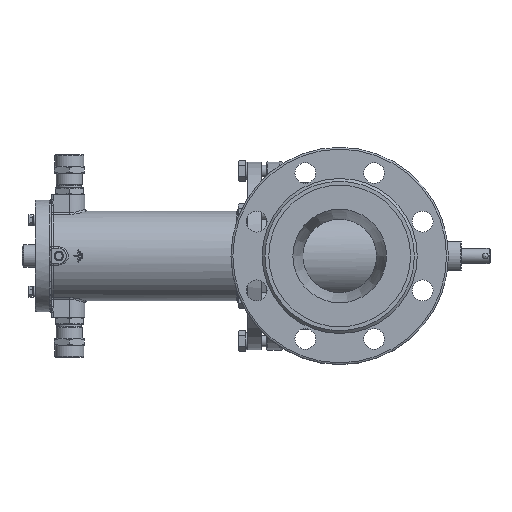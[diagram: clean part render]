
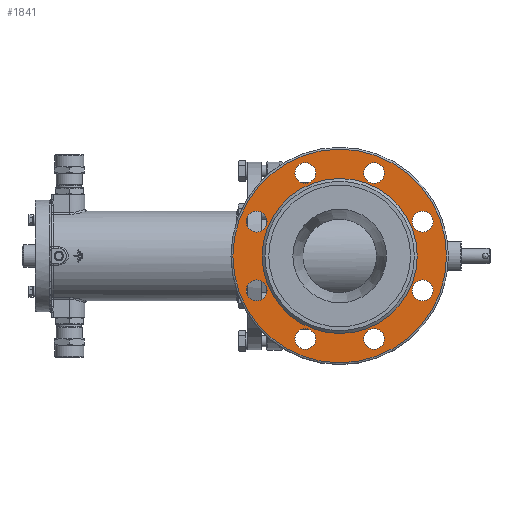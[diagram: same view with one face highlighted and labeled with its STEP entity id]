
A CAD part, left-side view. The second image highlights one B-rep face of the part: STEP entity #1841.
In plain terms, the highlighted planar face has unit normal (-1, 0, 0).
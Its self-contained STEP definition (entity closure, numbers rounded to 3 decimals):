
#1841=ADVANCED_FACE('',(#20768,#20770,#20772,#20774,#20776,#20778,#20780,#20782,
#20784,#20786),#20788,.T.);
#20768=FACE_BOUND('',#20769,.T.);
#20769=EDGE_LOOP('',(#31546));
#20770=FACE_BOUND('',#20771,.T.);
#20771=EDGE_LOOP('',(#31547));
#20772=FACE_BOUND('',#20773,.T.);
#20773=EDGE_LOOP('',(#31548));
#20774=FACE_BOUND('',#20775,.T.);
#20775=EDGE_LOOP('',(#31549));
#20776=FACE_BOUND('',#20777,.T.);
#20777=EDGE_LOOP('',(#31550));
#20778=FACE_BOUND('',#20779,.T.);
#20779=EDGE_LOOP('',(#31551));
#20780=FACE_BOUND('',#20781,.T.);
#20781=EDGE_LOOP('',(#31552));
#20782=FACE_BOUND('',#20783,.T.);
#20783=EDGE_LOOP('',(#31553));
#20784=FACE_BOUND('',#20785,.T.);
#20785=EDGE_LOOP('',(#31554));
#20786=FACE_OUTER_BOUND('',#20787,.T.);
#20787=EDGE_LOOP('',(#31555));
#20788=PLANE('',#20789);
#20789=AXIS2_PLACEMENT_3D('',#20790,#20791,#20792);
#20790=CARTESIAN_POINT('',(-151.,0.,0.));
#20791=DIRECTION('',(-1.,0.,0.));
#20792=DIRECTION('',(0.,1.,0.));
#31546=ORIENTED_EDGE('',*,*,#39032,.F.);
#31547=ORIENTED_EDGE('',*,*,#39001,.T.);
#31548=ORIENTED_EDGE('',*,*,#38999,.T.);
#31549=ORIENTED_EDGE('',*,*,#38997,.T.);
#31550=ORIENTED_EDGE('',*,*,#38995,.T.);
#31551=ORIENTED_EDGE('',*,*,#38993,.T.);
#31552=ORIENTED_EDGE('',*,*,#38991,.T.);
#31553=ORIENTED_EDGE('',*,*,#38989,.T.);
#31554=ORIENTED_EDGE('',*,*,#38987,.T.);
#31555=ORIENTED_EDGE('',*,*,#39033,.T.);
#38987=EDGE_CURVE('',#47022,#47022,#47024,.F.);
#38989=EDGE_CURVE('',#47025,#47025,#47027,.F.);
#38991=EDGE_CURVE('',#47028,#47028,#47030,.F.);
#38993=EDGE_CURVE('',#47031,#47031,#47033,.F.);
#38995=EDGE_CURVE('',#47034,#47034,#47036,.F.);
#38997=EDGE_CURVE('',#47037,#47037,#47039,.F.);
#38999=EDGE_CURVE('',#47040,#47040,#47042,.F.);
#39001=EDGE_CURVE('',#47043,#47043,#47045,.F.);
#39032=EDGE_CURVE('',#47100,#47100,#47101,.T.);
#39033=EDGE_CURVE('',#47102,#47102,#47103,.T.);
#47022=VERTEX_POINT('',#75217);
#47024=CIRCLE('',#75221,11.);
#47025=VERTEX_POINT('',#75225);
#47027=CIRCLE('',#75229,11.);
#47028=VERTEX_POINT('',#75233);
#47030=CIRCLE('',#75237,11.);
#47031=VERTEX_POINT('',#75241);
#47033=CIRCLE('',#75245,11.);
#47034=VERTEX_POINT('',#75249);
#47036=CIRCLE('',#75253,11.);
#47037=VERTEX_POINT('',#75257);
#47039=CIRCLE('',#75261,11.);
#47040=VERTEX_POINT('',#75265);
#47042=CIRCLE('',#75269,11.);
#47043=VERTEX_POINT('',#75273);
#47045=CIRCLE('',#75277,11.);
#47100=VERTEX_POINT('',#75529);
#47101=CIRCLE('',#75530,82.);
#47102=VERTEX_POINT('',#75534);
#47103=CIRCLE('',#75535,113.);
#75217=CARTESIAN_POINT('',(-151.,87.769,25.355));
#75221=AXIS2_PLACEMENT_3D('',#75222,#75223,#75224);
#75222=CARTESIAN_POINT('',(-151.,87.769,36.355));
#75223=DIRECTION('',(-1.,0.,0.));
#75224=DIRECTION('',(0.,0.,-1.));
#75225=CARTESIAN_POINT('',(-151.,87.769,-47.355));
#75229=AXIS2_PLACEMENT_3D('',#75230,#75231,#75232);
#75230=CARTESIAN_POINT('',(-151.,87.769,-36.355));
#75231=DIRECTION('',(-1.,0.,0.));
#75232=DIRECTION('',(0.,0.,-1.));
#75233=CARTESIAN_POINT('',(-151.,36.355,-98.769));
#75237=AXIS2_PLACEMENT_3D('',#75238,#75239,#75240);
#75238=CARTESIAN_POINT('',(-151.,36.355,-87.769));
#75239=DIRECTION('',(-1.,0.,0.));
#75240=DIRECTION('',(0.,0.,-1.));
#75241=CARTESIAN_POINT('',(-151.,36.355,76.769));
#75245=AXIS2_PLACEMENT_3D('',#75246,#75247,#75248);
#75246=CARTESIAN_POINT('',(-151.,36.355,87.769));
#75247=DIRECTION('',(-1.,0.,0.));
#75248=DIRECTION('',(0.,0.,-1.));
#75249=CARTESIAN_POINT('',(-151.,-87.769,25.355));
#75253=AXIS2_PLACEMENT_3D('',#75254,#75255,#75256);
#75254=CARTESIAN_POINT('',(-151.,-87.769,36.355));
#75255=DIRECTION('',(-1.,0.,0.));
#75256=DIRECTION('',(0.,0.,-1.));
#75257=CARTESIAN_POINT('',(-151.,-87.769,-47.355));
#75261=AXIS2_PLACEMENT_3D('',#75262,#75263,#75264);
#75262=CARTESIAN_POINT('',(-151.,-87.769,-36.355));
#75263=DIRECTION('',(-1.,0.,0.));
#75264=DIRECTION('',(0.,0.,-1.));
#75265=CARTESIAN_POINT('',(-151.,-36.355,-98.769));
#75269=AXIS2_PLACEMENT_3D('',#75270,#75271,#75272);
#75270=CARTESIAN_POINT('',(-151.,-36.355,-87.769));
#75271=DIRECTION('',(-1.,0.,0.));
#75272=DIRECTION('',(0.,0.,-1.));
#75273=CARTESIAN_POINT('',(-151.,-36.355,76.769));
#75277=AXIS2_PLACEMENT_3D('',#75278,#75279,#75280);
#75278=CARTESIAN_POINT('',(-151.,-36.355,87.769));
#75279=DIRECTION('',(-1.,0.,0.));
#75280=DIRECTION('',(0.,0.,-1.));
#75529=CARTESIAN_POINT('',(-151.,82.,0.));
#75530=AXIS2_PLACEMENT_3D('',#75531,#75532,#75533);
#75531=CARTESIAN_POINT('',(-151.,0.,0.));
#75532=DIRECTION('',(-1.,0.,0.));
#75533=DIRECTION('',(0.,1.,0.));
#75534=CARTESIAN_POINT('',(-151.,113.,0.));
#75535=AXIS2_PLACEMENT_3D('',#75536,#75537,#75538);
#75536=CARTESIAN_POINT('',(-151.,0.,0.));
#75537=DIRECTION('',(-1.,0.,0.));
#75538=DIRECTION('',(0.,1.,0.));
